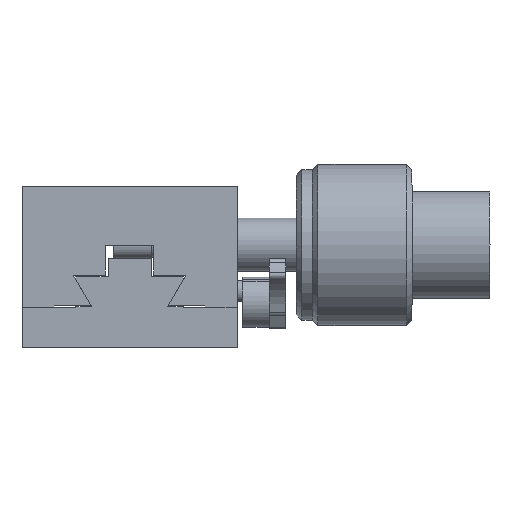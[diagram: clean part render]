
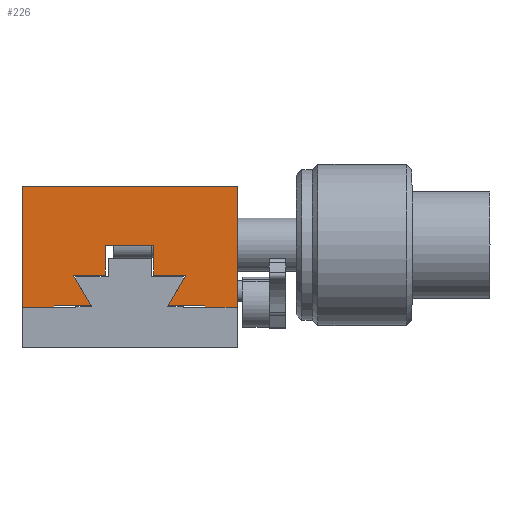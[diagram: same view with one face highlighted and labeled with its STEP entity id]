
A CAD part, left-side view. The second image highlights one B-rep face of the part: STEP entity #226.
In plain terms, the highlighted planar face has unit normal (-1, 0, 0).
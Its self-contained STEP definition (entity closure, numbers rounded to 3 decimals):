
#226 = ADVANCED_FACE( '', ( #466 ), #467, .T. );
#466 = FACE_OUTER_BOUND( '', #797, .T. );
#467 = PLANE( '', #798 );
#797 = EDGE_LOOP( '', ( #1311, #1312, #1313, #1314, #1315, #1316, #1317, #1318, #1319, #1320, #1321, #1322, #1323, #1324, #1325, #1326 ) );
#798 = AXIS2_PLACEMENT_3D( '', #1327, #1328, #1329 );
#1311 = ORIENTED_EDGE( '', *, *, #2076, .T. );
#1312 = ORIENTED_EDGE( '', *, *, #2024, .T. );
#1313 = ORIENTED_EDGE( '', *, *, #2077, .T. );
#1314 = ORIENTED_EDGE( '', *, *, #2078, .T. );
#1315 = ORIENTED_EDGE( '', *, *, #2079, .T. );
#1316 = ORIENTED_EDGE( '', *, *, #2080, .T. );
#1317 = ORIENTED_EDGE( '', *, *, #2029, .T. );
#1318 = ORIENTED_EDGE( '', *, *, #2081, .T. );
#1319 = ORIENTED_EDGE( '', *, *, #2082, .T. );
#1320 = ORIENTED_EDGE( '', *, *, #2074, .T. );
#1321 = ORIENTED_EDGE( '', *, *, #2072, .T. );
#1322 = ORIENTED_EDGE( '', *, *, #2020, .T. );
#1323 = ORIENTED_EDGE( '', *, *, #2071, .T. );
#1324 = ORIENTED_EDGE( '', *, *, #2058, .T. );
#1325 = ORIENTED_EDGE( '', *, *, #1994, .T. );
#1326 = ORIENTED_EDGE( '', *, *, #2083, .F. );
#1327 = CARTESIAN_POINT( '', ( -85., 0., 7.5 ) );
#1328 = DIRECTION( '', ( -1., 0., 0. ) );
#1329 = DIRECTION( '', ( 0., 0., 1. ) );
#1994 = EDGE_CURVE( '', #2324, #2328, #2330, .T. );
#2020 = EDGE_CURVE( '', #2375, #2376, #2377, .T. );
#2024 = EDGE_CURVE( '', #2383, #2384, #2385, .T. );
#2029 = EDGE_CURVE( '', #2393, #2391, #2394, .T. );
#2058 = EDGE_CURVE( '', #2434, #2324, #2435, .T. );
#2071 = EDGE_CURVE( '', #2376, #2434, #2455, .T. );
#2072 = EDGE_CURVE( '', #2456, #2375, #2457, .T. );
#2074 = EDGE_CURVE( '', #2459, #2456, #2460, .T. );
#2076 = EDGE_CURVE( '', #2462, #2383, #2463, .T. );
#2077 = EDGE_CURVE( '', #2384, #2464, #2465, .T. );
#2078 = EDGE_CURVE( '', #2464, #2466, #2467, .T. );
#2079 = EDGE_CURVE( '', #2466, #2468, #2469, .T. );
#2080 = EDGE_CURVE( '', #2468, #2393, #2470, .T. );
#2081 = EDGE_CURVE( '', #2391, #2471, #2472, .T. );
#2082 = EDGE_CURVE( '', #2471, #2459, #2473, .T. );
#2083 = EDGE_CURVE( '', #2462, #2328, #2474, .T. );
#2324 = VERTEX_POINT( '', #2891 );
#2328 = VERTEX_POINT( '', #2897 );
#2330 = LINE( '', #2900, #2901 );
#2375 = VERTEX_POINT( '', #2967 );
#2376 = VERTEX_POINT( '', #2968 );
#2377 = LINE( '', #2969, #2970 );
#2383 = VERTEX_POINT( '', #2979 );
#2384 = VERTEX_POINT( '', #2980 );
#2385 = LINE( '', #2981, #2982 );
#2391 = VERTEX_POINT( '', #2991 );
#2393 = VERTEX_POINT( '', #2994 );
#2394 = LINE( '', #2995, #2996 );
#2434 = VERTEX_POINT( '', #3077 );
#2435 = LINE( '', #3078, #3079 );
#2455 = LINE( '', #3111, #3112 );
#2456 = VERTEX_POINT( '', #3113 );
#2457 = LINE( '', #3114, #3115 );
#2459 = VERTEX_POINT( '', #3118 );
#2460 = LINE( '', #3119, #3120 );
#2462 = VERTEX_POINT( '', #3123 );
#2463 = LINE( '', #3124, #3125 );
#2464 = VERTEX_POINT( '', #3126 );
#2465 = LINE( '', #3127, #3128 );
#2466 = VERTEX_POINT( '', #3129 );
#2467 = LINE( '', #3130, #3131 );
#2468 = VERTEX_POINT( '', #3132 );
#2469 = LINE( '', #3133, #3134 );
#2470 = LINE( '', #3135, #3136 );
#2471 = VERTEX_POINT( '', #3137 );
#2472 = LINE( '', #3138, #3139 );
#2473 = LINE( '', #3140, #3141 );
#2474 = LINE( '', #3142, #3143 );
#2891 = CARTESIAN_POINT( '', ( -85., -20., 30. ) );
#2897 = CARTESIAN_POINT( '', ( -85., 20., 30. ) );
#2900 = CARTESIAN_POINT( '', ( -85., 0., 30. ) );
#2901 = VECTOR( '', #3641, 1000. );
#2967 = CARTESIAN_POINT( '', ( -85., -14., 7.8 ) );
#2968 = CARTESIAN_POINT( '', ( -85., -14., 7.5 ) );
#2969 = CARTESIAN_POINT( '', ( -85., -14., 7.5 ) );
#2970 = VECTOR( '', #3690, 1000. );
#2979 = CARTESIAN_POINT( '', ( -85., 14., 7.5 ) );
#2980 = CARTESIAN_POINT( '', ( -85., 14., 7.8 ) );
#2981 = CARTESIAN_POINT( '', ( -85., 14., 7.5 ) );
#2982 = VECTOR( '', #3694, 1000. );
#2991 = CARTESIAN_POINT( '', ( -85., -4.5, 19. ) );
#2994 = CARTESIAN_POINT( '', ( -85., 4.5, 19. ) );
#2995 = CARTESIAN_POINT( '', ( -85., 0., 19. ) );
#2996 = VECTOR( '', #3699, 1000. );
#3077 = CARTESIAN_POINT( '', ( -85., -20., 7.5 ) );
#3078 = CARTESIAN_POINT( '', ( -85., -20., 7.5 ) );
#3079 = VECTOR( '', #3756, 1000. );
#3111 = CARTESIAN_POINT( '', ( -85., 0., 7.5 ) );
#3112 = VECTOR( '', #3769, 1000. );
#3113 = CARTESIAN_POINT( '', ( -85., -7.173, 7.8 ) );
#3114 = CARTESIAN_POINT( '', ( -85., 0., 7.8 ) );
#3115 = VECTOR( '', #3770, 1000. );
#3118 = CARTESIAN_POINT( '', ( -85., -10.464, 13.5 ) );
#3119 = CARTESIAN_POINT( '', ( -85., -5.25, 4.469 ) );
#3120 = VECTOR( '', #3772, 1000. );
#3123 = CARTESIAN_POINT( '', ( -85., 20., 7.5 ) );
#3124 = CARTESIAN_POINT( '', ( -85., 0., 7.5 ) );
#3125 = VECTOR( '', #3774, 1000. );
#3126 = CARTESIAN_POINT( '', ( -85., 7.173, 7.8 ) );
#3127 = CARTESIAN_POINT( '', ( -85., 0., 7.8 ) );
#3128 = VECTOR( '', #3775, 1000. );
#3129 = CARTESIAN_POINT( '', ( -85., 10.464, 13.5 ) );
#3130 = CARTESIAN_POINT( '', ( -85., 5.25, 4.469 ) );
#3131 = VECTOR( '', #3776, 1000. );
#3132 = CARTESIAN_POINT( '', ( -85., 4.5, 13.5 ) );
#3133 = CARTESIAN_POINT( '', ( -85., 0., 13.5 ) );
#3134 = VECTOR( '', #3777, 1000. );
#3135 = CARTESIAN_POINT( '', ( -85., 4.5, 7.5 ) );
#3136 = VECTOR( '', #3778, 1000. );
#3137 = CARTESIAN_POINT( '', ( -85., -4.5, 13.5 ) );
#3138 = CARTESIAN_POINT( '', ( -85., -4.5, 7.5 ) );
#3139 = VECTOR( '', #3779, 1000. );
#3140 = CARTESIAN_POINT( '', ( -85., 0., 13.5 ) );
#3141 = VECTOR( '', #3780, 1000. );
#3142 = CARTESIAN_POINT( '', ( -85., 20., 7.5 ) );
#3143 = VECTOR( '', #3781, 1000. );
#3641 = DIRECTION( '', ( 0., 1., 0. ) );
#3690 = DIRECTION( '', ( 0., 0., -1. ) );
#3694 = DIRECTION( '', ( 0., 0., 1. ) );
#3699 = DIRECTION( '', ( 0., -1., 0. ) );
#3756 = DIRECTION( '', ( 0., 0., 1. ) );
#3769 = DIRECTION( '', ( 0., -1., 0. ) );
#3770 = DIRECTION( '', ( 0., -1., 0. ) );
#3772 = DIRECTION( '', ( 0., 0.5, -0.866 ) );
#3774 = DIRECTION( '', ( 0., -1., 0. ) );
#3775 = DIRECTION( '', ( 0., -1., 0. ) );
#3776 = DIRECTION( '', ( 0., 0.5, 0.866 ) );
#3777 = DIRECTION( '', ( 0., -1., 0. ) );
#3778 = DIRECTION( '', ( 0., 0., 1. ) );
#3779 = DIRECTION( '', ( 0., 0., -1. ) );
#3780 = DIRECTION( '', ( 0., -1., 0. ) );
#3781 = DIRECTION( '', ( 0., 0., 1. ) );
